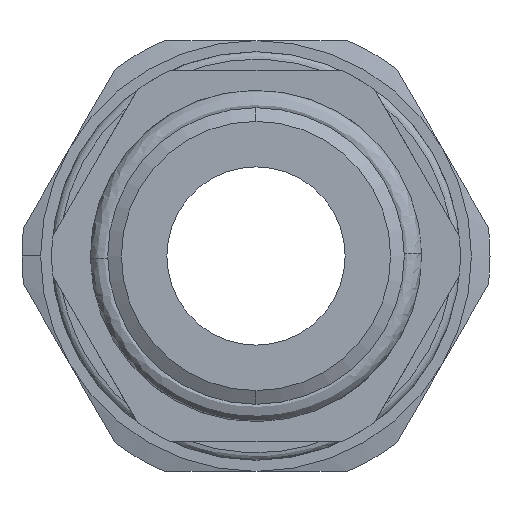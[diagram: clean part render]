
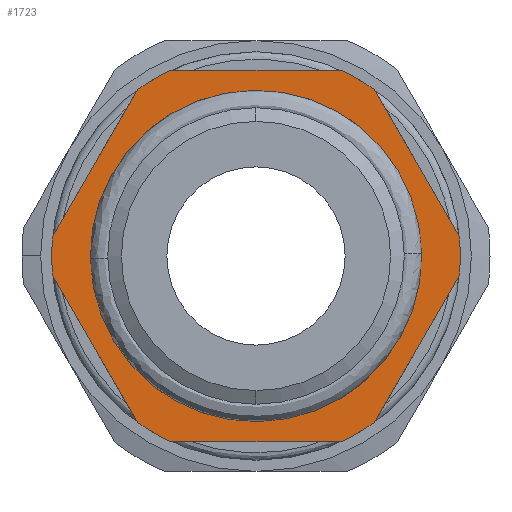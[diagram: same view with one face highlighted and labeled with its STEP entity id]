
A CAD part, front view. The second image highlights one B-rep face of the part: STEP entity #1723.
In plain terms, the highlighted planar face has unit normal (0, -1, 0).
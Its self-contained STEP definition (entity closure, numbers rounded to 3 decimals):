
#1 = AXIS2_PLACEMENT_3D ( 'NONE', #1546, #84, #2576 ) ;
#5 = EDGE_CURVE ( 'NONE', #4226, #3818, #1167, .T. ) ;
#33 = CARTESIAN_POINT ( 'NONE',  ( 0., 11.499, 0. ) ) ;
#50 = DIRECTION ( 'NONE',  ( 0., 1., 0. ) ) ;
#63 = DIRECTION ( 'NONE',  ( 0.5, 0., 0.866 ) ) ;
#73 = ORIENTED_EDGE ( 'NONE', *, *, #2740, .F. ) ;
#84 = DIRECTION ( 'NONE',  ( 0., -1., 0. ) ) ;
#95 = AXIS2_PLACEMENT_3D ( 'NONE', #4422, #2409, #245 ) ;
#148 = VERTEX_POINT ( 'NONE', #2871 ) ;
#156 = CARTESIAN_POINT ( 'NONE',  ( -5.728, 11.499, 12.5 ) ) ;
#171 = VECTOR ( 'NONE', #3680, 1000. ) ;
#207 = EDGE_CURVE ( 'NONE', #384, #4466, #1020, .T. ) ;
#218 = EDGE_LOOP ( 'NONE', ( #1929, #3192 ) ) ;
#245 = DIRECTION ( 'NONE',  ( 0., 0., -1. ) ) ;
#272 = ORIENTED_EDGE ( 'NONE', *, *, #3599, .F. ) ;
#276 = CIRCLE ( 'NONE', #95, 11.129 ) ;
#366 = ORIENTED_EDGE ( 'NONE', *, *, #3123, .F. ) ;
#371 = LINE ( 'NONE', #394, #1435 ) ;
#384 = VERTEX_POINT ( 'NONE', #1643 ) ;
#387 = DIRECTION ( 'NONE',  ( 0., 0., -1. ) ) ;
#394 = CARTESIAN_POINT ( 'NONE',  ( 5.728, 11.499, 12.5 ) ) ;
#406 = AXIS2_PLACEMENT_3D ( 'NONE', #1144, #3569, #1521 ) ;
#440 = DIRECTION ( 'NONE',  ( 0., 1., 0. ) ) ;
#445 = VECTOR ( 'NONE', #470, 1000. ) ;
#449 = CARTESIAN_POINT ( 'NONE',  ( 7.961, 11.499, -11.211 ) ) ;
#450 = EDGE_CURVE ( 'NONE', #148, #2422, #884, .T. ) ;
#470 = DIRECTION ( 'NONE',  ( -1., 0., 0. ) ) ;
#489 = VERTEX_POINT ( 'NONE', #1159 ) ;
#614 = CARTESIAN_POINT ( 'NONE',  ( -13.689, 11.499, 1.289 ) ) ;
#638 = EDGE_CURVE ( 'NONE', #1731, #2532, #276, .T. ) ;
#683 = CARTESIAN_POINT ( 'NONE',  ( -13.689, 11.499, -1.289 ) ) ;
#770 = ORIENTED_EDGE ( 'NONE', *, *, #3317, .F. ) ;
#798 = CIRCLE ( 'NONE', #2983, 13.75 ) ;
#812 = CARTESIAN_POINT ( 'NONE',  ( 11.128, 11.499, 0.179 ) ) ;
#840 = CARTESIAN_POINT ( 'NONE',  ( 7.961, 11.499, -11.211 ) ) ;
#884 = CIRCLE ( 'NONE', #3438, 13.75 ) ;
#1020 = LINE ( 'NONE', #4276, #445 ) ;
#1076 = CARTESIAN_POINT ( 'NONE',  ( 13.689, 11.499, 1.289 ) ) ;
#1144 = CARTESIAN_POINT ( 'NONE',  ( 0., 11.499, 0. ) ) ;
#1159 = CARTESIAN_POINT ( 'NONE',  ( 13.689, 11.499, -1.289 ) ) ;
#1167 = CIRCLE ( 'NONE', #3360, 13.75 ) ;
#1200 = DIRECTION ( 'NONE',  ( -0.5, 0., -0.866 ) ) ;
#1258 = EDGE_CURVE ( 'NONE', #2781, #4226, #1417, .T. ) ;
#1304 = CARTESIAN_POINT ( 'NONE',  ( -7.961, 11.499, 11.211 ) ) ;
#1340 = EDGE_CURVE ( 'NONE', #2821, #384, #2126, .T. ) ;
#1409 = CARTESIAN_POINT ( 'NONE',  ( 0., 11.499, 0. ) ) ;
#1417 = LINE ( 'NONE', #3340, #3409 ) ;
#1420 = ORIENTED_EDGE ( 'NONE', *, *, #4365, .F. ) ;
#1435 = VECTOR ( 'NONE', #3877, 1000. ) ;
#1455 = CARTESIAN_POINT ( 'NONE',  ( 0., 11.499, 0. ) ) ;
#1479 = LINE ( 'NONE', #449, #2548 ) ;
#1521 = DIRECTION ( 'NONE',  ( 0., 0., 1. ) ) ;
#1546 = CARTESIAN_POINT ( 'NONE',  ( 14.575, 11.499, 0. ) ) ;
#1643 = CARTESIAN_POINT ( 'NONE',  ( 5.728, 11.499, -12.5 ) ) ;
#1652 = DIRECTION ( 'NONE',  ( -0.5, 0., 0.866 ) ) ;
#1723 = ADVANCED_FACE ( 'NONE', ( #3952, #4022 ), #3932, .T. ) ;
#1731 = VERTEX_POINT ( 'NONE', #812 ) ;
#1763 = ORIENTED_EDGE ( 'NONE', *, *, #5, .F. ) ;
#1771 = DIRECTION ( 'NONE',  ( 0., 0., 1. ) ) ;
#1814 = DIRECTION ( 'NONE',  ( 0., 0., 1. ) ) ;
#1885 = AXIS2_PLACEMENT_3D ( 'NONE', #1409, #3792, #1771 ) ;
#1929 = ORIENTED_EDGE ( 'NONE', *, *, #3097, .T. ) ;
#1942 = CARTESIAN_POINT ( 'NONE',  ( 7.961, 11.499, 11.211 ) ) ;
#2126 = CIRCLE ( 'NONE', #2462, 13.75 ) ;
#2134 = VERTEX_POINT ( 'NONE', #1076 ) ;
#2188 = DIRECTION ( 'NONE',  ( 0., 0., 1. ) ) ;
#2199 = CARTESIAN_POINT ( 'NONE',  ( 0., 11.499, 0. ) ) ;
#2301 = ORIENTED_EDGE ( 'NONE', *, *, #207, .F. ) ;
#2321 = CARTESIAN_POINT ( 'NONE',  ( -11.128, 11.499, -0.179 ) ) ;
#2362 = ORIENTED_EDGE ( 'NONE', *, *, #1340, .F. ) ;
#2398 = CIRCLE ( 'NONE', #2974, 11.129 ) ;
#2409 = DIRECTION ( 'NONE',  ( 0., 1., 0. ) ) ;
#2422 = VERTEX_POINT ( 'NONE', #1942 ) ;
#2462 = AXIS2_PLACEMENT_3D ( 'NONE', #1455, #3831, #1814 ) ;
#2524 = DIRECTION ( 'NONE',  ( 0., 1., 0. ) ) ;
#2532 = VERTEX_POINT ( 'NONE', #2321 ) ;
#2536 = DIRECTION ( 'NONE',  ( 0., 0., 1. ) ) ;
#2548 = VECTOR ( 'NONE', #1200, 1000. ) ;
#2556 = CARTESIAN_POINT ( 'NONE',  ( -7.961, 11.499, 11.211 ) ) ;
#2562 = CARTESIAN_POINT ( 'NONE',  ( 0., 11.499, 0. ) ) ;
#2576 = DIRECTION ( 'NONE',  ( 0., 0., -1. ) ) ;
#2634 = CARTESIAN_POINT ( 'NONE',  ( -5.728, 11.499, -12.5 ) ) ;
#2674 = ORIENTED_EDGE ( 'NONE', *, *, #450, .F. ) ;
#2735 = CIRCLE ( 'NONE', #406, 13.75 ) ;
#2740 = EDGE_CURVE ( 'NONE', #3752, #3498, #798, .T. ) ;
#2781 = VERTEX_POINT ( 'NONE', #3612 ) ;
#2821 = VERTEX_POINT ( 'NONE', #840 ) ;
#2871 = CARTESIAN_POINT ( 'NONE',  ( 5.728, 11.499, 12.5 ) ) ;
#2885 = DIRECTION ( 'NONE',  ( 0., 0., 1. ) ) ;
#2901 = VECTOR ( 'NONE', #63, 1000. ) ;
#2974 = AXIS2_PLACEMENT_3D ( 'NONE', #33, #2524, #387 ) ;
#2983 = AXIS2_PLACEMENT_3D ( 'NONE', #2562, #440, #2885 ) ;
#3097 = EDGE_CURVE ( 'NONE', #2532, #1731, #2398, .T. ) ;
#3123 = EDGE_CURVE ( 'NONE', #4466, #2781, #2735, .T. ) ;
#3192 = ORIENTED_EDGE ( 'NONE', *, *, #638, .T. ) ;
#3193 = CARTESIAN_POINT ( 'NONE',  ( 0., 11.499, 0. ) ) ;
#3317 = EDGE_CURVE ( 'NONE', #3498, #148, #371, .T. ) ;
#3340 = CARTESIAN_POINT ( 'NONE',  ( -13.689, 11.499, -1.289 ) ) ;
#3360 = AXIS2_PLACEMENT_3D ( 'NONE', #3193, #4484, #2188 ) ;
#3409 = VECTOR ( 'NONE', #1652, 1000. ) ;
#3430 = LINE ( 'NONE', #4006, #171 ) ;
#3438 = AXIS2_PLACEMENT_3D ( 'NONE', #2199, #50, #2536 ) ;
#3457 = ORIENTED_EDGE ( 'NONE', *, *, #3530, .F. ) ;
#3498 = VERTEX_POINT ( 'NONE', #156 ) ;
#3508 = LINE ( 'NONE', #2556, #2901 ) ;
#3530 = EDGE_CURVE ( 'NONE', #2422, #2134, #3430, .T. ) ;
#3569 = DIRECTION ( 'NONE',  ( 0., 1., 0. ) ) ;
#3599 = EDGE_CURVE ( 'NONE', #489, #2821, #1479, .T. ) ;
#3612 = CARTESIAN_POINT ( 'NONE',  ( -7.961, 11.499, -11.211 ) ) ;
#3680 = DIRECTION ( 'NONE',  ( 0.5, 0., -0.866 ) ) ;
#3752 = VERTEX_POINT ( 'NONE', #1304 ) ;
#3777 = ORIENTED_EDGE ( 'NONE', *, *, #1258, .F. ) ;
#3789 = CIRCLE ( 'NONE', #1885, 13.75 ) ;
#3792 = DIRECTION ( 'NONE',  ( 0., 1., 0. ) ) ;
#3818 = VERTEX_POINT ( 'NONE', #614 ) ;
#3831 = DIRECTION ( 'NONE',  ( 0., 1., 0. ) ) ;
#3877 = DIRECTION ( 'NONE',  ( 1., 0., 0. ) ) ;
#3932 = PLANE ( 'NONE',  #1 ) ;
#3952 = FACE_BOUND ( 'NONE', #218, .T. ) ;
#4006 = CARTESIAN_POINT ( 'NONE',  ( 13.689, 11.499, 1.289 ) ) ;
#4022 = FACE_OUTER_BOUND ( 'NONE', #4156, .T. ) ;
#4145 = EDGE_CURVE ( 'NONE', #2134, #489, #3789, .T. ) ;
#4156 = EDGE_LOOP ( 'NONE', ( #73, #1420, #1763, #3777, #366, #2301, #2362, #272, #4423, #3457, #2674, #770 ) ) ;
#4226 = VERTEX_POINT ( 'NONE', #683 ) ;
#4276 = CARTESIAN_POINT ( 'NONE',  ( -5.728, 11.499, -12.5 ) ) ;
#4365 = EDGE_CURVE ( 'NONE', #3818, #3752, #3508, .T. ) ;
#4422 = CARTESIAN_POINT ( 'NONE',  ( 0., 11.499, 0. ) ) ;
#4423 = ORIENTED_EDGE ( 'NONE', *, *, #4145, .F. ) ;
#4466 = VERTEX_POINT ( 'NONE', #2634 ) ;
#4484 = DIRECTION ( 'NONE',  ( 0., 1., 0. ) ) ;
